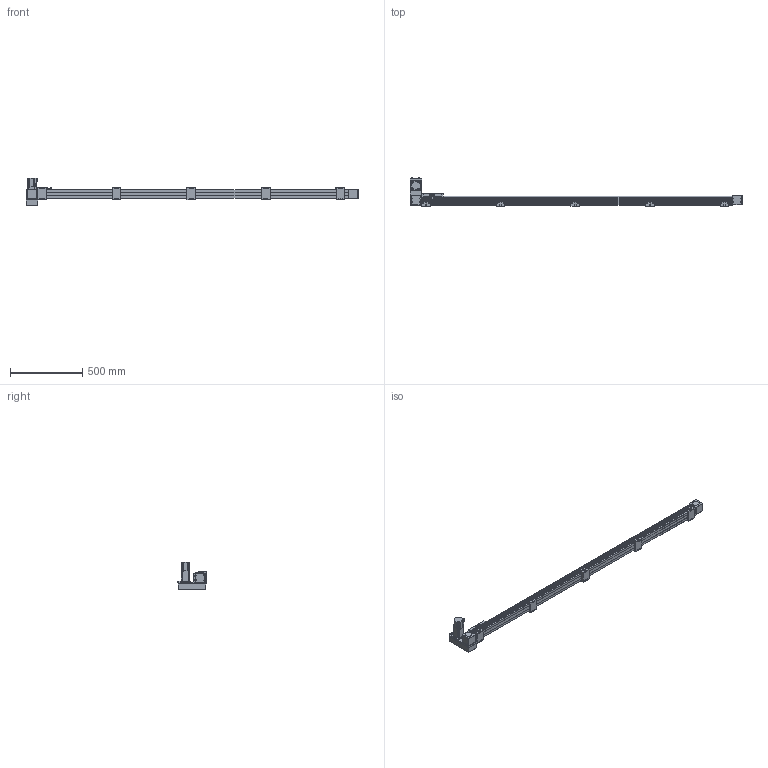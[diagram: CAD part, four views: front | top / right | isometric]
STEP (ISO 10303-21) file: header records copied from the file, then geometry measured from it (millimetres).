
FILE_DESCRIPTION(/* description */ ('STEP AP214'),/* implementation_level */ '2;1');
FILE_NAME(/* name */ 'SK60-P13-S2000-LU-T40-C1-N(0)',/* time_stamp */ '2023-04-06T04:48:24+02:00',/* author */ ('License CC BY-ND 4.0'),/* organization */ ('CADENAS'),/* preprocessor_version */ 'ST-DEVELOPER v19.3',/* originating_system */ 'PARTsolutions',/* authorisation */ ' ');
FILE_SCHEMA (('AUTOMOTIVE_DESIGN {1 0 10303 214 3 1 1}'));
Length unit declared in the file: millimetre
Products named in the file (10): SK60-P13-S2000-LU-T40-C1-N(0); PSC140-sensor; SK60-S450_seat; SK60-S450-BL-C1_slider; SK60_body3; SK60_body6; SK60-BL_body2; T40-p1; SK60-LU_fb; SK60-S2000-LU-C1_body
Assembly tree (19 placements, depth 2):
  SK60-P13-S2000-LU-T40-C1-N(0)
    PSC140-sensor  x3
    SK60-S450_seat  x5
    SK60-S450-BL-C1_slider
    SK60_body3  x3
    SK60_body6  x2
    SK60-BL_body2  x2
    T40-p1
    SK60-LU_fb
    SK60-S2000-LU-C1_body
Bounding box: 2305.5 x 201 x 189.7 mm (x, y, z)
Volume: 9067024 mm3; surface area: 1091717.8 mm2
Topology: 19 solids, 19 shells, 942 faces, 2342 edges, 1541 vertices
Faces by surface type: plane 596, cylinder 310, cone 34, torus 2
Full cylindrical faces by diameter (mm): 2.8 x3, 3.3 x4, 4 x2, 4.5 x30, 4.6 x3, 4.917 x28, 5 x6, 5.478 x4, 5.5 x31, 6.5 x10, 7 x2, 8 x4, 8.5 x4, 9.988 x4, 10 x20, 14 x1, 47 x3, 50 x2
Entity records: 18679 total; most frequent: DIRECTION 3190, CARTESIAN_POINT 3153, ORIENTED_EDGE 2940, EDGE_CURVE 1470, AXIS2_PLACEMENT_3D 1071, LINE 1048, VECTOR 1048, VERTEX_POINT 1034
